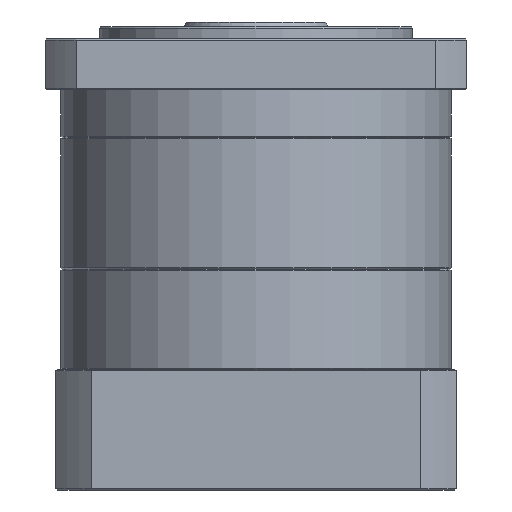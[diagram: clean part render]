
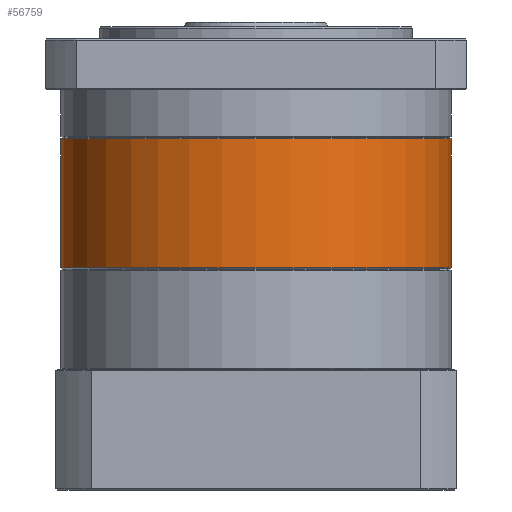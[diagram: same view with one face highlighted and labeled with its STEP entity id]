
A CAD part, front view. The second image highlights one B-rep face of the part: STEP entity #56759.
In plain terms, the highlighted cylindrical face has radius 81 mm (diameter 162 mm), a partial arc.
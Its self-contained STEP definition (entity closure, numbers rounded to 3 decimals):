
#763 = AXIS2_PLACEMENT_3D ( 'NONE', #38221, #67768, #31941 ) ;
#799 = DIRECTION ( 'NONE',  ( 0., 0., 1. ) ) ;
#960 = LINE ( 'NONE', #91462, #69603 ) ;
#3907 = DIRECTION ( 'NONE',  ( 0., 0., -1. ) ) ;
#4764 = DIRECTION ( 'NONE',  ( 0., 0., 1. ) ) ;
#15234 = DIRECTION ( 'NONE',  ( 0., 0., -1. ) ) ;
#16585 = DIRECTION ( 'NONE',  ( 0., 0., -1. ) ) ;
#18032 = DIRECTION ( 'NONE',  ( 0., 1., 0. ) ) ;
#18241 = EDGE_CURVE ( 'NONE', #41959, #82666, #960, .T. ) ;
#18802 = EDGE_CURVE ( 'NONE', #38472, #24933, #91806, .T. ) ;
#21496 = CARTESIAN_POINT ( 'NONE',  ( 267.54, 60.524, 8.655 ) ) ;
#23460 = CARTESIAN_POINT ( 'NONE',  ( 186.54, 60.524, 62.655 ) ) ;
#23525 = CARTESIAN_POINT ( 'NONE',  ( 105.54, 60.524, 62.655 ) ) ;
#24598 = EDGE_LOOP ( 'NONE', ( #26014, #49895, #80578, #89361, #33639 ) ) ;
#24933 = VERTEX_POINT ( 'NONE', #60790 ) ;
#25245 = CARTESIAN_POINT ( 'NONE',  ( 186.54, 60.524, 9.155 ) ) ;
#26014 = ORIENTED_EDGE ( 'NONE', *, *, #18241, .F. ) ;
#31941 = DIRECTION ( 'NONE',  ( 1., 0., 0. ) ) ;
#33639 = ORIENTED_EDGE ( 'NONE', *, *, #61913, .T. ) ;
#37594 = FACE_OUTER_BOUND ( 'NONE', #24598, .T. ) ;
#38221 = CARTESIAN_POINT ( 'NONE',  ( 186.54, 60.524, 8.655 ) ) ;
#38472 = VERTEX_POINT ( 'NONE', #47601 ) ;
#38797 = AXIS2_PLACEMENT_3D ( 'NONE', #25245, #3907, #18032 ) ;
#40642 = AXIS2_PLACEMENT_3D ( 'NONE', #23460, #16585, #60310 ) ;
#41959 = VERTEX_POINT ( 'NONE', #44249 ) ;
#44249 = CARTESIAN_POINT ( 'NONE',  ( 105.54, 60.524, 9.155 ) ) ;
#46958 = CIRCLE ( 'NONE', #38797, 81. ) ;
#47601 = CARTESIAN_POINT ( 'NONE',  ( 267.54, 60.524, 9.155 ) ) ;
#49305 = EDGE_CURVE ( 'NONE', #38472, #79099, #72566, .T. ) ;
#49895 = ORIENTED_EDGE ( 'NONE', *, *, #84405, .F. ) ;
#55900 = VECTOR ( 'NONE', #799, 1000. ) ;
#56258 = CARTESIAN_POINT ( 'NONE',  ( 186.54, -20.476, 9.155 ) ) ;
#56759 = ADVANCED_FACE ( 'NONE', ( #37594 ), #56778, .T. ) ;
#56778 = CYLINDRICAL_SURFACE ( 'NONE', #763, 81. ) ;
#59252 = DIRECTION ( 'NONE',  ( 0., 1., 0. ) ) ;
#60310 = DIRECTION ( 'NONE',  ( 1., 0., 0. ) ) ;
#60790 = CARTESIAN_POINT ( 'NONE',  ( 267.54, 60.524, 62.655 ) ) ;
#61913 = EDGE_CURVE ( 'NONE', #24933, #82666, #80020, .T. ) ;
#62044 = AXIS2_PLACEMENT_3D ( 'NONE', #79667, #15234, #59252 ) ;
#67768 = DIRECTION ( 'NONE',  ( 0., 0., 1. ) ) ;
#69603 = VECTOR ( 'NONE', #4764, 1000. ) ;
#72566 = CIRCLE ( 'NONE', #62044, 81. ) ;
#79099 = VERTEX_POINT ( 'NONE', #56258 ) ;
#79667 = CARTESIAN_POINT ( 'NONE',  ( 186.54, 60.524, 9.155 ) ) ;
#80020 = CIRCLE ( 'NONE', #40642, 81. ) ;
#80578 = ORIENTED_EDGE ( 'NONE', *, *, #49305, .F. ) ;
#82666 = VERTEX_POINT ( 'NONE', #23525 ) ;
#84405 = EDGE_CURVE ( 'NONE', #79099, #41959, #46958, .T. ) ;
#89361 = ORIENTED_EDGE ( 'NONE', *, *, #18802, .T. ) ;
#91462 = CARTESIAN_POINT ( 'NONE',  ( 105.54, 60.524, 8.655 ) ) ;
#91806 = LINE ( 'NONE', #21496, #55900 ) ;
